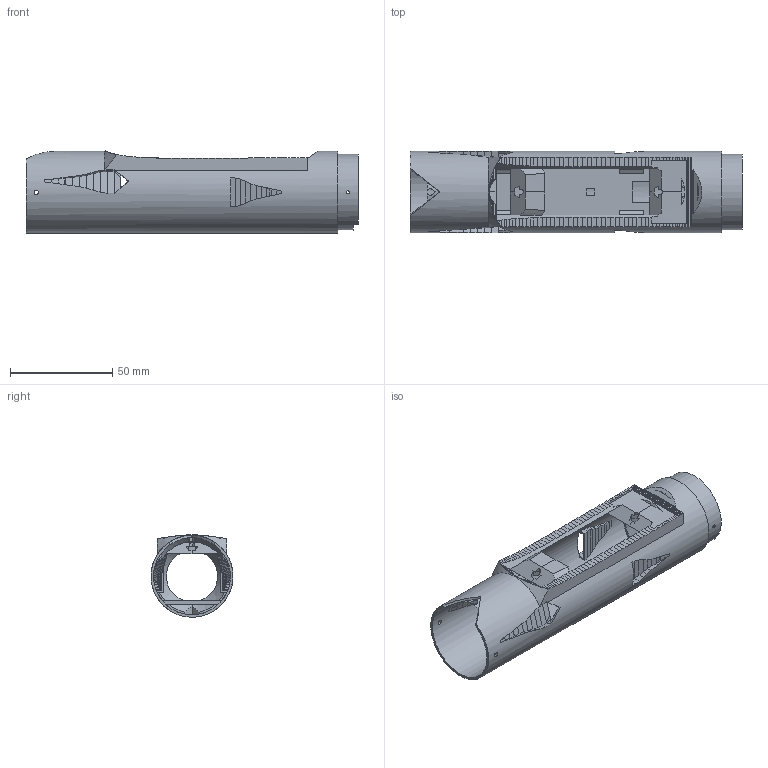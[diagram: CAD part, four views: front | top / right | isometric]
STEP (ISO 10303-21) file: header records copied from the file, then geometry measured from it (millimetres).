
FILE_DESCRIPTION(('Open CASCADE Model'),'2;1');
FILE_NAME('Open CASCADE Shape Model','2026-10-04T21:26:21',('Author'),( 'Open CASCADE'),'Open CASCADE STEP processor 7.9','Open CASCADE 7.9' ,'Unknown');
FILE_SCHEMA(('AUTOMOTIVE_DESIGN { 1 0 10303 214 1 1 1 1 }'));
Products named in the file (1): Open CASCADE STEP translator 7.9 12
Bounding box: 162 x 40 x 40.27 mm (x, y, z)
Volume: 37082.7 mm3; surface area: 44945.2 mm2
Topology: 1 solids, 1 shells, 660 faces, 1813 edges, 1135 vertices
Faces by surface type: plane 400, bspline 198, cylinder 57, cone 5
Full cylindrical faces by diameter (mm): 1.6 x2, 2.2 x2, 25 x1, 33.8 x1, 37 x1, 37.6 x2, 40 x1
Entity records: 61452 total; most frequent: CARTESIAN_POINT 29496, DIRECTION 4481, ORIENTED_EDGE 3626, PCURVE 3626, DEFINITIONAL_REPRESENTATION 3626, LINE 2875, VECTOR 2875, B_SPLINE_CURVE_WITH_KNOTS 2079
